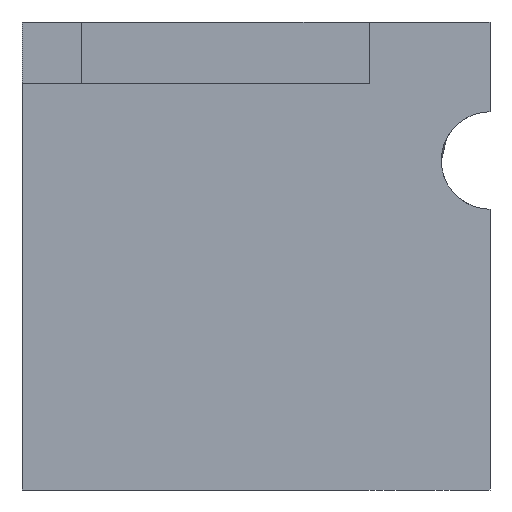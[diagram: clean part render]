
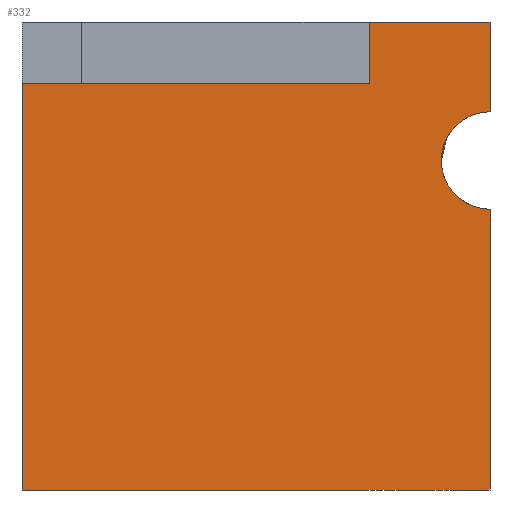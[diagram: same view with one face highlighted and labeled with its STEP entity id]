
A CAD part, left-side view. The second image highlights one B-rep face of the part: STEP entity #332.
In plain terms, the highlighted planar face has unit normal (-1, 0, 0).
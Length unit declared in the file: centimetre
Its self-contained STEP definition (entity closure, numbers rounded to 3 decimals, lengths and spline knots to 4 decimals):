
#3 = AXIS2_PLACEMENT_3D ( 'NONE', #943, #2112, #1612 ) ;
#10 = VERTEX_POINT ( 'NONE', #437 ) ;
#98 = CARTESIAN_POINT ( 'NONE',  ( 0., 258.0763, 867.7133 ) ) ;
#109 = DIRECTION ( 'NONE',  ( 0., 0., -1. ) ) ;
#122 = LINE ( 'NONE', #1471, #513 ) ;
#128 = AXIS2_PLACEMENT_3D ( 'NONE', #442, #2079, #109 ) ;
#161 = EDGE_CURVE ( 'NONE', #2065, #1708, #935, .T. ) ;
#251 = CARTESIAN_POINT ( 'NONE',  ( 0., 0., 1000. ) ) ;
#332 = ADVANCED_FACE ( 'NONE', ( #395 ), #740, .F. ) ;
#359 = EDGE_CURVE ( 'NONE', #1708, #1566, #1950, .T. ) ;
#377 = EDGE_CURVE ( 'NONE', #590, #1934, #453, .T. ) ;
#390 = ORIENTED_EDGE ( 'NONE', *, *, #1399, .T. ) ;
#395 = FACE_OUTER_BOUND ( 'NONE', #1577, .T. ) ;
#419 = DIRECTION ( 'NONE',  ( 0., 1., 0. ) ) ;
#437 = CARTESIAN_POINT ( 'NONE',  ( 0., 1000., 0. ) ) ;
#442 = CARTESIAN_POINT ( 'NONE',  ( 0., 1000., 1000. ) ) ;
#453 = LINE ( 'NONE', #1114, #1274 ) ;
#484 = VECTOR ( 'NONE', #817, 100. ) ;
#513 = VECTOR ( 'NONE', #1642, 100. ) ;
#590 = VERTEX_POINT ( 'NONE', #1358 ) ;
#599 = LINE ( 'NONE', #1942, #654 ) ;
#654 = VECTOR ( 'NONE', #1745, 100. ) ;
#674 = CARTESIAN_POINT ( 'NONE',  ( 0., 1000., 1000. ) ) ;
#688 = DIRECTION ( 'NONE',  ( 0., 0., -1. ) ) ;
#700 = ORIENTED_EDGE ( 'NONE', *, *, #161, .F. ) ;
#705 = VECTOR ( 'NONE', #1618, 100. ) ;
#726 = CARTESIAN_POINT ( 'NONE',  ( 0., 0., 600.0212 ) ) ;
#731 = EDGE_CURVE ( 'NONE', #10, #1566, #122, .T. ) ;
#740 = PLANE ( 'NONE',  #128 ) ;
#752 = VECTOR ( 'NONE', #419, 100. ) ;
#793 = CARTESIAN_POINT ( 'NONE',  ( 0., 1000., 867.7133 ) ) ;
#817 = DIRECTION ( 'NONE',  ( 0., 0., 1. ) ) ;
#907 = ORIENTED_EDGE ( 'NONE', *, *, #377, .F. ) ;
#935 = CIRCLE ( 'NONE', #3, 104.052 ) ;
#943 = CARTESIAN_POINT ( 'NONE',  ( 0., 0., 704.0732 ) ) ;
#950 = CARTESIAN_POINT ( 'NONE',  ( 0., 0., 1000. ) ) ;
#1056 = EDGE_CURVE ( 'NONE', #1382, #1253, #1564, .T. ) ;
#1114 = CARTESIAN_POINT ( 'NONE',  ( 0., 1000., 1000. ) ) ;
#1140 = VECTOR ( 'NONE', #688, 100. ) ;
#1210 = ORIENTED_EDGE ( 'NONE', *, *, #1499, .F. ) ;
#1238 = CARTESIAN_POINT ( 'NONE',  ( 0., 0., 808.1252 ) ) ;
#1253 = VERTEX_POINT ( 'NONE', #793 ) ;
#1274 = VECTOR ( 'NONE', #1514, 100. ) ;
#1287 = ORIENTED_EDGE ( 'NONE', *, *, #1056, .T. ) ;
#1333 = LINE ( 'NONE', #1658, #484 ) ;
#1358 = CARTESIAN_POINT ( 'NONE',  ( 0., 258.0763, 1000. ) ) ;
#1382 = VERTEX_POINT ( 'NONE', #1857 ) ;
#1399 = EDGE_CURVE ( 'NONE', #1253, #10, #1519, .T. ) ;
#1471 = CARTESIAN_POINT ( 'NONE',  ( 0., 1000., 0. ) ) ;
#1499 = EDGE_CURVE ( 'NONE', #1382, #590, #1333, .T. ) ;
#1514 = DIRECTION ( 'NONE',  ( 0., -1., 0. ) ) ;
#1519 = LINE ( 'NONE', #674, #1140 ) ;
#1564 = LINE ( 'NONE', #98, #752 ) ;
#1566 = VERTEX_POINT ( 'NONE', #1567 ) ;
#1567 = CARTESIAN_POINT ( 'NONE',  ( 0., 0., 0. ) ) ;
#1577 = EDGE_LOOP ( 'NONE', ( #2118, #700, #1919, #907, #1210, #1287, #390, #2050 ) ) ;
#1612 = DIRECTION ( 'NONE',  ( 0., 0., 1. ) ) ;
#1618 = DIRECTION ( 'NONE',  ( 0., 0., -1. ) ) ;
#1642 = DIRECTION ( 'NONE',  ( 0., -1., 0. ) ) ;
#1658 = CARTESIAN_POINT ( 'NONE',  ( 0., 258.0763, 867.7133 ) ) ;
#1708 = VERTEX_POINT ( 'NONE', #726 ) ;
#1745 = DIRECTION ( 'NONE',  ( 0., 0., -1. ) ) ;
#1857 = CARTESIAN_POINT ( 'NONE',  ( 0., 258.0763, 867.7133 ) ) ;
#1919 = ORIENTED_EDGE ( 'NONE', *, *, #1996, .F. ) ;
#1934 = VERTEX_POINT ( 'NONE', #251 ) ;
#1942 = CARTESIAN_POINT ( 'NONE',  ( 0., 0., 1000. ) ) ;
#1950 = LINE ( 'NONE', #950, #705 ) ;
#1996 = EDGE_CURVE ( 'NONE', #1934, #2065, #599, .T. ) ;
#2050 = ORIENTED_EDGE ( 'NONE', *, *, #731, .T. ) ;
#2065 = VERTEX_POINT ( 'NONE', #1238 ) ;
#2079 = DIRECTION ( 'NONE',  ( 1., 0., 0. ) ) ;
#2112 = DIRECTION ( 'NONE',  ( -1., 0., 0. ) ) ;
#2118 = ORIENTED_EDGE ( 'NONE', *, *, #359, .F. ) ;
